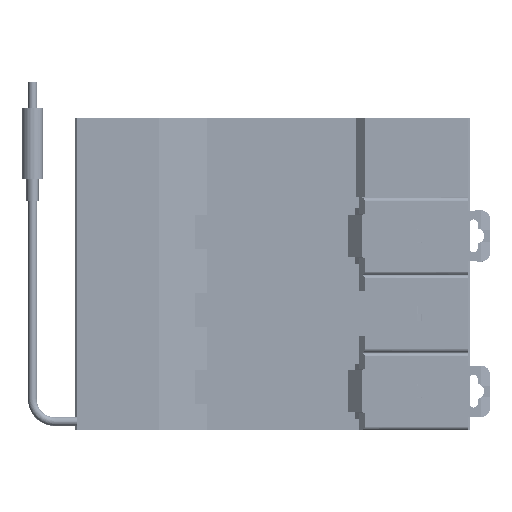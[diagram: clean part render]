
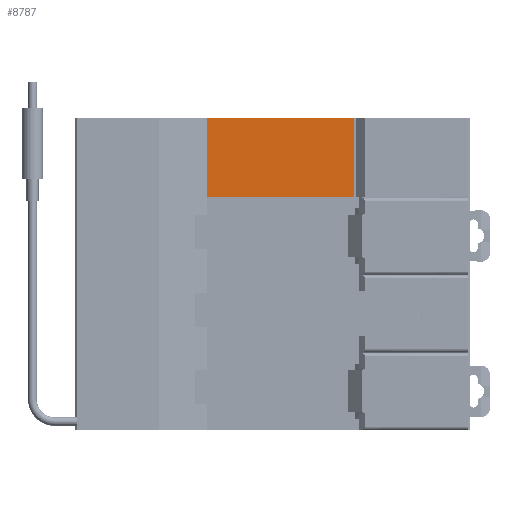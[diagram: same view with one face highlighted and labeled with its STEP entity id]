
A CAD part, front view. The second image highlights one B-rep face of the part: STEP entity #8787.
In plain terms, the highlighted planar face has unit normal (0, -1, 0).
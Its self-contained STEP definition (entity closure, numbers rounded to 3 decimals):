
#8787 = ADVANCED_FACE ( 'NONE', ( #198332 ), #185132, .F. ) ;
#32430 = EDGE_LOOP ( 'NONE', ( #328494, #435842, #714572, #739776 ) ) ;
#45356 = CARTESIAN_POINT ( 'NONE',  ( 2.417, -29.727, 118.925 ) ) ;
#88540 = VERTEX_POINT ( 'NONE', #45356 ) ;
#120879 = EDGE_CURVE ( 'NONE', #666788, #88540, #839176, .T. ) ;
#159938 = VERTEX_POINT ( 'NONE', #805316 ) ;
#173085 = VECTOR ( 'NONE', #641711, 1000. ) ;
#181722 = CARTESIAN_POINT ( 'NONE',  ( -33.633, -29.727, 92.125 ) ) ;
#185132 = PLANE ( 'NONE',  #230057 ) ;
#195922 = VERTEX_POINT ( 'NONE', #387567 ) ;
#198332 = FACE_OUTER_BOUND ( 'NONE', #32430, .T. ) ;
#230057 = AXIS2_PLACEMENT_3D ( 'NONE', #181722, #571719, #740446 ) ;
#250553 = LINE ( 'NONE', #864749, #744310 ) ;
#328494 = ORIENTED_EDGE ( 'NONE', *, *, #369011, .T. ) ;
#333635 = LINE ( 'NONE', #410509, #173085 ) ;
#369011 = EDGE_CURVE ( 'NONE', #195922, #88540, #925459, .T. ) ;
#387567 = CARTESIAN_POINT ( 'NONE',  ( 2.417, -29.727, 100.925 ) ) ;
#407770 = VECTOR ( 'NONE', #580215, 1000. ) ;
#410509 = CARTESIAN_POINT ( 'NONE',  ( -33.633, -29.727, 100.925 ) ) ;
#435842 = ORIENTED_EDGE ( 'NONE', *, *, #120879, .F. ) ;
#448961 = EDGE_CURVE ( 'NONE', #666788, #159938, #250553, .T. ) ;
#456451 = VECTOR ( 'NONE', #862225, 1000. ) ;
#571719 = DIRECTION ( 'NONE',  ( 0., 1., 0. ) ) ;
#580215 = DIRECTION ( 'NONE',  ( 1., 0., 0. ) ) ;
#621011 = CARTESIAN_POINT ( 'NONE',  ( 2.417, -29.727, 92.125 ) ) ;
#641711 = DIRECTION ( 'NONE',  ( 1., 0., 0. ) ) ;
#666788 = VERTEX_POINT ( 'NONE', #1020299 ) ;
#714572 = ORIENTED_EDGE ( 'NONE', *, *, #448961, .T. ) ;
#739776 = ORIENTED_EDGE ( 'NONE', *, *, #779069, .T. ) ;
#740446 = DIRECTION ( 'NONE',  ( 1., 0., 0. ) ) ;
#744310 = VECTOR ( 'NONE', #1023201, 1000. ) ;
#779069 = EDGE_CURVE ( 'NONE', #159938, #195922, #333635, .T. ) ;
#805316 = CARTESIAN_POINT ( 'NONE',  ( -33.633, -29.727, 100.925 ) ) ;
#821316 = CARTESIAN_POINT ( 'NONE',  ( -38.434, -29.727, 118.925 ) ) ;
#839176 = LINE ( 'NONE', #821316, #407770 ) ;
#862225 = DIRECTION ( 'NONE',  ( 0., 0., 1. ) ) ;
#864749 = CARTESIAN_POINT ( 'NONE',  ( -33.633, -29.727, 92.125 ) ) ;
#925459 = LINE ( 'NONE', #621011, #456451 ) ;
#1020299 = CARTESIAN_POINT ( 'NONE',  ( -33.633, -29.727, 118.925 ) ) ;
#1023201 = DIRECTION ( 'NONE',  ( 0., 0., -1. ) ) ;
